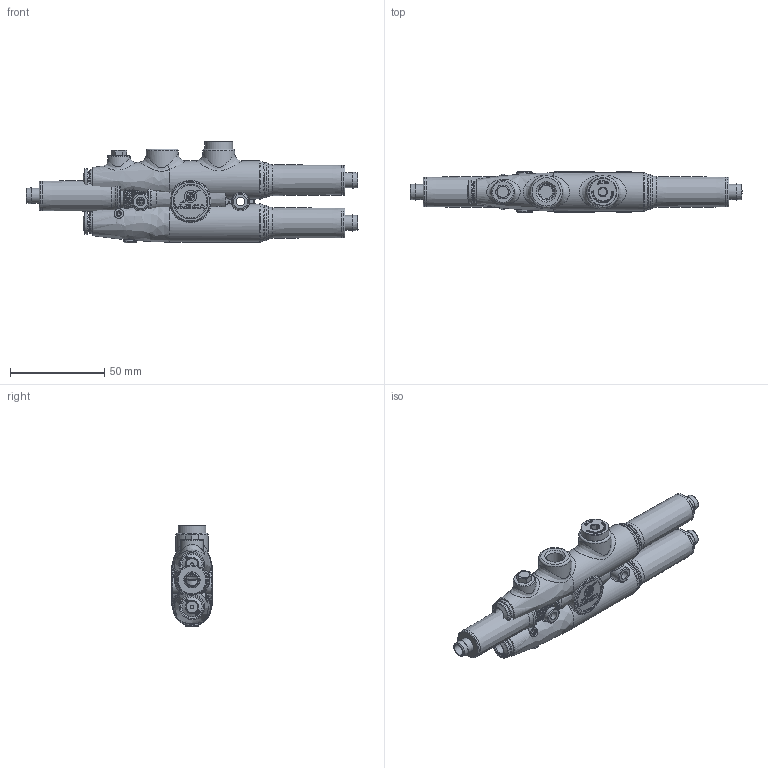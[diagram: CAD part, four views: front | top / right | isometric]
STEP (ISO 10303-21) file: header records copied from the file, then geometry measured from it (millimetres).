
FILE_DESCRIPTION( ( 'Unknown' ), '1' );
FILE_NAME( 'X:/±è¿µ¿î/Green Pump/VC203Pump-6/GH203F(dim).stp', 'Unknown', ( 'Unknown' ), ( 'Unknown' ), 'PSStep 10.0', 'Unknown', ' ' );
FILE_SCHEMA( ( 'AUTOMOTIVE_DESIGN { 1 0 10303 214 1 1 1 1 }' ) );
Length unit declared in the file: millimetre
Products named in the file (9): Assem1; 203-Filter Ass'y(dim); Silencer End cap(203)-DIM; Silencer Cover(203)-DIM; M5-Plug; Logo cover(203); VC203(Double)-Body(dim); Fitting-6-DIM; Plug18_New_PPS(dim)
Bounding box: 176.2 x 21.4 x 53.85 mm (x, y, z)
Volume: 138876 mm3; surface area: 67709.1 mm2
Topology: 20 solids, 20 shells, 1814 faces, 4254 edges, 2688 vertices
Faces by surface type: plane 786, cylinder 364, bspline 249, torus 151, cone 136, sphere 64, extrusion 62, revolution 2
Full cylindrical faces by diameter (mm): 0.65 x3, 0.681 x2, 1.422 x8, 2.008 x4, 2.2 x4, 3.2 x2, 4 x2, 4.2 x4, 4.5 x4, 5 x2, 6 x4, 6.2 x3, 6.8 x2, 7 x4, 8 x7, 8.1 x3, 8.5 x8, 8.8 x4, 9.1 x4, 9.9 x3, 10.3 x9, 12 x2, 12.5 x3, 12.8 x2, 13.6 x4, 14 x16, 14.5 x8, 14.8 x2, 15.8 x4, 17 x4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
Entity records: 45223 total; most frequent: CARTESIAN_POINT 23748, ORIENTED_EDGE 3126, DIRECTION 2894, EDGE_CURVE 1563, VERTEX_POINT 1066, AXIS2_PLACEMENT_3D 1051, EDGE_LOOP 977, FACE_OUTER_BOUND 840
